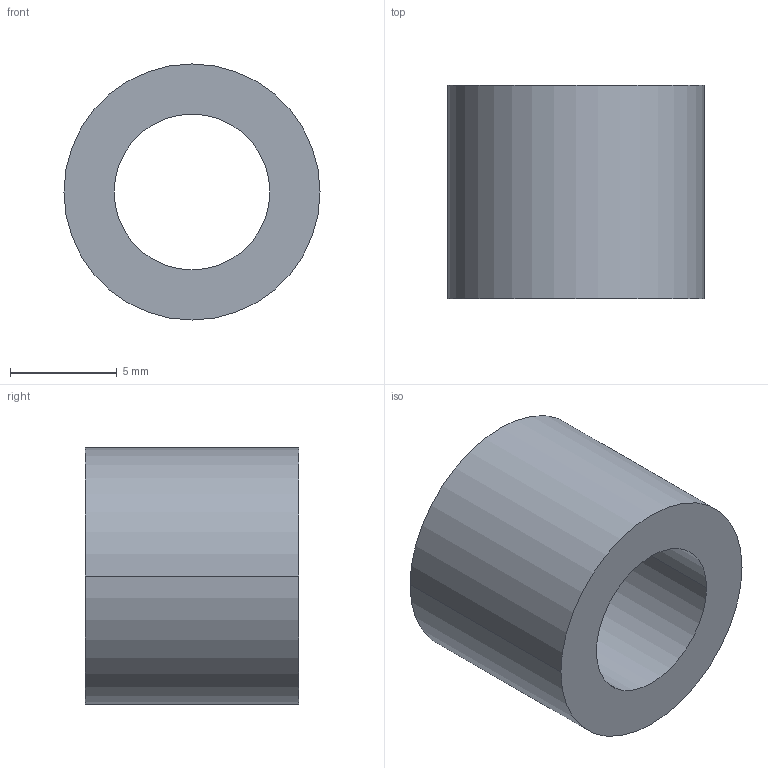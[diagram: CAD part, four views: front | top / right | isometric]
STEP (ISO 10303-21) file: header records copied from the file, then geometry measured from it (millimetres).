
FILE_DESCRIPTION (( 'STEP AP203' ), '1' );
FILE_NAME ('30800.WPP12D7.3.step', '2019-01-23T22:27:37', ( '' ), ( '' ), 'SwSTEP 2.0', 'SolidWorks 2017', '' );
FILE_SCHEMA (( 'CONFIG_CONTROL_DESIGN' ));
Length unit declared in the file: millimetre
Products named in the file (1): 30800.WPP12D7.3
Bounding box: 12 x 10 x 12 mm (x, y, z)
Volume: 700.3 mm3; surface area: 735.1 mm2
Topology: 1 solids, 1 shells, 8 faces, 16 edges, 10 vertices
Faces by surface type: cylinder 4, torus 2, plane 2
Entity records: 297 total; most frequent: DIRECTION 46, CARTESIAN_POINT 35, ORIENTED_EDGE 32, AXIS2_PLACEMENT_3D 21, EDGE_CURVE 16, CIRCLE 12, VERTEX_POINT 10, EDGE_LOOP 10
